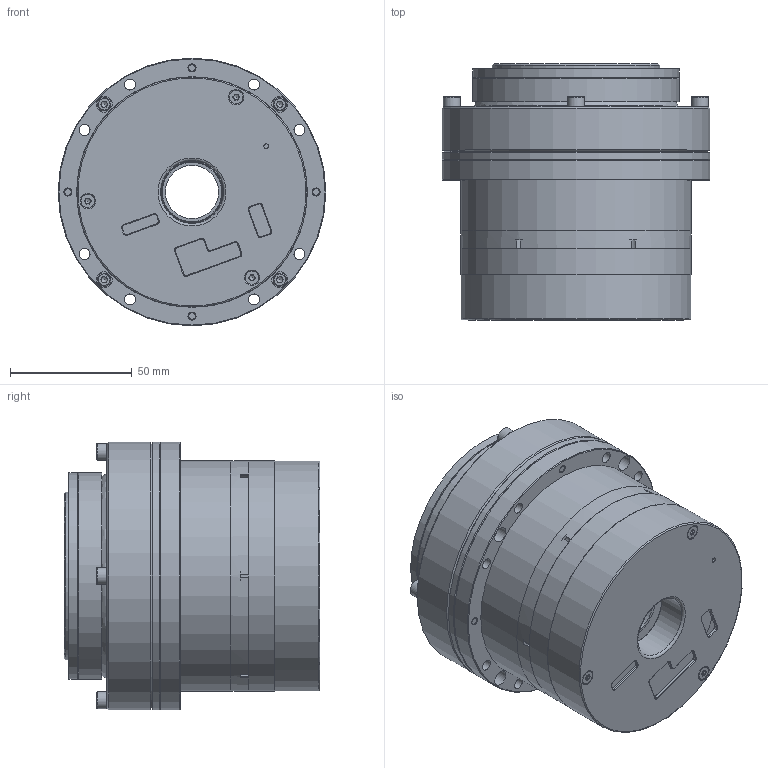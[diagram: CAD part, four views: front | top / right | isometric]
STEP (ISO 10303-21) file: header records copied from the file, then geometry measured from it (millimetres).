
FILE_DESCRIPTION (( 'STEP AP203' ), '1' );
FILE_NAME ('RH-25-100-E-B-D.STEP', '2026-01-08T09:33:37', ( '' ), ( '' ), 'SwSTEP 2.0', 'SolidWorks 2020', '' );
FILE_SCHEMA (( 'CONFIG_CONTROL_DESIGN' ));
Length unit declared in the file: millimetre
Products named in the file (11): 8MT.013.049（RH-25 减速机密封盖-双编+抱闸）_Default<按加工>; GB╱T 70.1-2008[内六角圆柱头螺钉M4×30]_M4×30; 8MT.013.063（RH-25 驱动器盖-ECAT-抱闸式）; WHS-25-XX-I_Default<偌樓馱>; RH-25-100-E-B-D; 8MT.013.013（RH-25 端盖）; GB╱T 2673.1-2018[内六角花形沉头螺钉M2-M4M3×12]_M3×12; 零件8^1MT.055.026（RH-25-100-E-B 一体化谐波减速模组-双编+抱闸+ECAT）; GB╱T 70.3-2008[内六角沉头螺钉M3×16]_M3×16; 8MT.034.004（RH-25 机座）; 8MT.013.014（RH-25 抱闸盖）
Assembly tree (16 placements, depth 2):
  RH-25-100-E-B-D
    8MT.013.013（RH-25 端盖）
    8MT.013.014（RH-25 抱闸盖）
    8MT.013.049（RH-25 减速机密封盖-双编+抱闸）_Default<按加工>
    8MT.013.063（RH-25 驱动器盖-ECAT-抱闸式）
    8MT.034.004（RH-25 机座）
    GB╱T 2673.1-2018[内六角花形沉头螺钉M2-M4M3×12]_M3×12  x3
    GB╱T 70.1-2008[内六角圆柱头螺钉M4×30]_M4×30  x4
    GB╱T 70.3-2008[内六角沉头螺钉M3×16]_M3×16  x2
    WHS-25-XX-I_Default<偌樓馱>
    零件8^1MT.055.026（RH-25-100-E-B 一体化谐波减速模组-双编+抱闸+ECAT）
Bounding box: 110 x 105.2 x 110 mm (x, y, z)
Volume: 556680.4 mm3; surface area: 294175.2 mm2
Topology: 42 solids, 42 shells, 1255 faces, 3042 edges, 1939 vertices
Faces by surface type: cylinder 470, plane 434, cone 270, torus 46, bspline 35
Full cylindrical faces by diameter (mm): 1.6 x6, 1.9 x1, 2.05 x1, 2.5 x36, 2.677 x3, 2.9 x1, 3 x17, 3.3 x20, 3.4 x29, 3.5 x4, 4 x4, 4.4 x16, 4.5 x53, 5 x1, 5.2 x4, 5.5 x11, 6 x14, 6.5 x8, 6.72 x2, 7 x4, 22 x1, 25 x1, 25.328 x1, 26 x3, 29 x1, 29.781 x2, 34.828 x1, 40 x2, 40.228 x1, 40.328 x1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
Entity records: 34427 total; most frequent: CARTESIAN_POINT 8499, DIRECTION 5326, ORIENTED_EDGE 4146, AXIS2_PLACEMENT_3D 2329, EDGE_CURVE 2073, EDGE_LOOP 2049, VERTEX_POINT 1604, FACE_OUTER_BOUND 1486
